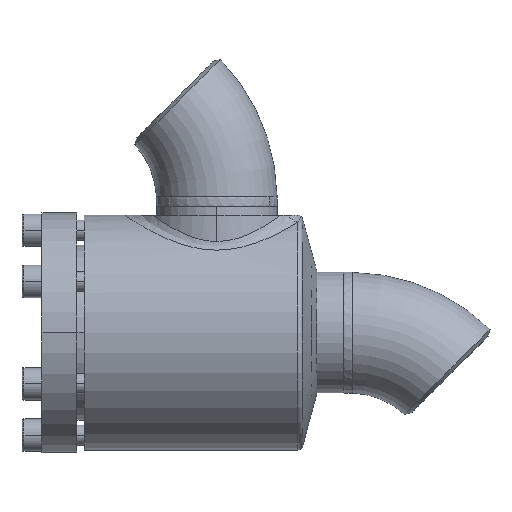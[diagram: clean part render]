
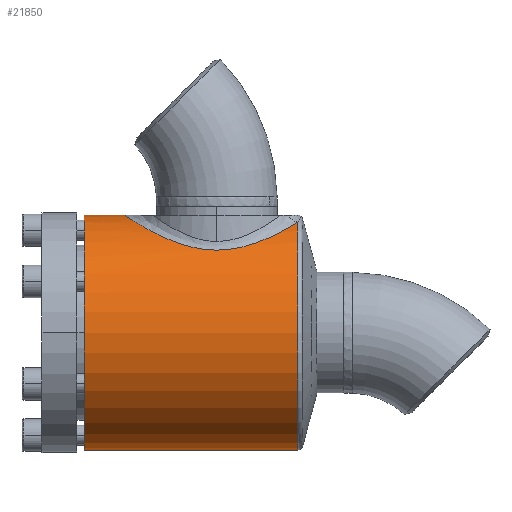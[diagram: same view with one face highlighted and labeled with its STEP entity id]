
A CAD part, left-side view. The second image highlights one B-rep face of the part: STEP entity #21850.
In plain terms, the highlighted cylindrical face has radius 47 mm (diameter 94 mm), a partial arc.
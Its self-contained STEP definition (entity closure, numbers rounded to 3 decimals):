
#556 = EDGE_CURVE ( 'NONE', #24353, #22381, #17076, .T. ) ;
#17076 = CIRCLE ( 'NONE', #17077, 47. ) ;
#17077 = AXIS2_PLACEMENT_3D ( 'NONE', #17078, #17079, #17080 ) ;
#17078 = CARTESIAN_POINT ( 'NONE',  ( 0., 0., 0. ) ) ;
#17079 = DIRECTION ( 'NONE',  ( 0., 1., 0. ) ) ;
#17080 = DIRECTION ( 'NONE',  ( 0., 0., 1. ) ) ;
#856 = VERTEX_POINT ( 'NONE', #17650 ) ;
#1221 = ORIENTED_EDGE ( 'NONE', *, *, #556, .F. ) ;
#17650 = CARTESIAN_POINT ( 'NONE',  ( -16.073, -85.446, 44.166 ) ) ;
#17912 = CARTESIAN_POINT ( 'NONE',  ( 0., 0., -47. ) ) ;
#18475 = LINE ( 'NONE', #18476, #18477 ) ;
#18476 = CARTESIAN_POINT ( 'NONE',  ( 0., -91., -47. ) ) ;
#18477 = VECTOR ( 'NONE', #18478, 1000. ) ;
#18478 = DIRECTION ( 'NONE',  ( 0., 1., 0. ) ) ;
#2147 = ORIENTED_EDGE ( 'NONE', *, *, #20493, .T. ) ;
#2567 = LINE ( 'NONE', #2568, #2569 ) ;
#2568 = CARTESIAN_POINT ( 'NONE',  ( 0., -91., 47. ) ) ;
#2569 = VECTOR ( 'NONE', #2570, 1000. ) ;
#2570 = DIRECTION ( 'NONE',  ( 0., 1., 0. ) ) ;
#2924 = CARTESIAN_POINT ( 'NONE',  ( 0., -85.446, -47. ) ) ;
#3069 = ORIENTED_EDGE ( 'NONE', *, *, #14698, .T. ) ;
#3166 = B_SPLINE_CURVE_WITH_KNOTS ( 'NONE', 3,
 ( #3167, #3184, #3185, #3186, #3187, #3188, #3189, #3190, #3191, #3192, #3193, #3194, #3195, #3196, #3197, #3198, #3199, #3216, #3217, #3218, #3219, #3220, #3221, #3222, #3223, #3224, #3225, #3226, #3227, #3228, #3229, #3230, #3231, #3252, #3253, #3254, #3255, #3256, #3257, #3258, #3259, #3260, #3261, #3262, #3263, #3264, #3265, #3266, #3267, #3286, #3287, #3288, #3289, #3290, #3291, #3292, #3293, #3294, #3295, #3296, #3297, #3298 ),
 .UNSPECIFIED., .F., .F.,
 ( 4, 2, 2, 2, 2, 2, 2, 2, 2, 2, 2, 2, 2, 2, 2, 2, 2, 2, 2, 2, 2, 2, 2, 2, 2, 2, 2, 2, 2, 2, 4 ),
 ( 0.017, 0.023, 0.026, 0.029, 0.035, 0.039, 0.04, 0.042, 0.048, 0.051, 0.052, 0.054, 0.06, 0.063, 0.066, 0.069, 0.072, 0.078, 0.081, 0.083, 0.084, 0.09, 0.093, 0.095, 0.096, 0.103, 0.106, 0.107, 0.109, 0.112, 0.115 ),
 .UNSPECIFIED. ) ;
#3167 = CARTESIAN_POINT ( 'NONE',  ( -16.073, -85.446, 44.166 ) ) ;
#3184 = CARTESIAN_POINT ( 'NONE',  ( -17.749, -84.43, 43.556 ) ) ;
#3185 = CARTESIAN_POINT ( 'NONE',  ( -19.293, -83.29, 42.887 ) ) ;
#3186 = CARTESIAN_POINT ( 'NONE',  ( -21.444, -81.41, 41.831 ) ) ;
#3187 = CARTESIAN_POINT ( 'NONE',  ( -22.133, -80.755, 41.469 ) ) ;
#3188 = CARTESIAN_POINT ( 'NONE',  ( -23.459, -79.389, 40.734 ) ) ;
#3189 = CARTESIAN_POINT ( 'NONE',  ( -24.096, -78.676, 40.359 ) ) ;
#3190 = CARTESIAN_POINT ( 'NONE',  ( -25.907, -76.48, 39.24 ) ) ;
#3191 = CARTESIAN_POINT ( 'NONE',  ( -26.989, -74.936, 38.497 ) ) ;
#3192 = CARTESIAN_POINT ( 'NONE',  ( -28.44, -72.491, 37.424 ) ) ;
#3193 = CARTESIAN_POINT ( 'NONE',  ( -28.894, -71.655, 37.073 ) ) ;
#3194 = CARTESIAN_POINT ( 'NONE',  ( -29.533, -70.366, 36.563 ) ) ;
#3195 = CARTESIAN_POINT ( 'NONE',  ( -29.739, -69.93, 36.396 ) ) ;
#3196 = CARTESIAN_POINT ( 'NONE',  ( -30.137, -69.047, 36.067 ) ) ;
#3197 = CARTESIAN_POINT ( 'NONE',  ( -30.328, -68.599, 35.906 ) ) ;
#3198 = CARTESIAN_POINT ( 'NONE',  ( -31.243, -66.344, 35.126 ) ) ;
#3199 = CARTESIAN_POINT ( 'NONE',  ( -31.842, -64.482, 34.576 ) ) ;
#19570 = ORIENTED_EDGE ( 'NONE', *, *, #4225, .T. ) ;
#3216 = CARTESIAN_POINT ( 'NONE',  ( -32.541, -61.591, 33.914 ) ) ;
#3217 = CARTESIAN_POINT ( 'NONE',  ( -32.74, -60.61, 33.721 ) ) ;
#3218 = CARTESIAN_POINT ( 'NONE',  ( -32.986, -59.111, 33.48 ) ) ;
#3219 = CARTESIAN_POINT ( 'NONE',  ( -33.059, -58.608, 33.408 ) ) ;
#3220 = CARTESIAN_POINT ( 'NONE',  ( -33.186, -57.603, 33.282 ) ) ;
#3221 = CARTESIAN_POINT ( 'NONE',  ( -33.239, -57.1, 33.229 ) ) ;
#3222 = CARTESIAN_POINT ( 'NONE',  ( -33.462, -54.583, 33.006 ) ) ;
#3223 = CARTESIAN_POINT ( 'NONE',  ( -33.49, -52.562, 32.976 ) ) ;
#3224 = CARTESIAN_POINT ( 'NONE',  ( -33.307, -49.52, 33.161 ) ) ;
#3225 = CARTESIAN_POINT ( 'NONE',  ( -33.207, -48.498, 33.262 ) ) ;
#3226 = CARTESIAN_POINT ( 'NONE',  ( -32.933, -46.49, 33.532 ) ) ;
#3227 = CARTESIAN_POINT ( 'NONE',  ( -32.761, -45.501, 33.702 ) ) ;
#3228 = CARTESIAN_POINT ( 'NONE',  ( -32.346, -43.55, 34.1 ) ) ;
#3229 = CARTESIAN_POINT ( 'NONE',  ( -32.103, -42.587, 34.33 ) ) ;
#3230 = CARTESIAN_POINT ( 'NONE',  ( -31.549, -40.688, 34.839 ) ) ;
#3231 = CARTESIAN_POINT ( 'NONE',  ( -31.237, -39.749, 35.121 ) ) ;
#3252 = CARTESIAN_POINT ( 'NONE',  ( -30.211, -37.009, 36.016 ) ) ;
#3253 = CARTESIAN_POINT ( 'NONE',  ( -29.406, -35.272, 36.683 ) ) ;
#3254 = CARTESIAN_POINT ( 'NONE',  ( -28.021, -32.781, 37.738 ) ) ;
#3255 = CARTESIAN_POINT ( 'NONE',  ( -27.529, -31.97, 38.099 ) ) ;
#3256 = CARTESIAN_POINT ( 'NONE',  ( -26.744, -30.781, 38.65 ) ) ;
#3257 = CARTESIAN_POINT ( 'NONE',  ( -26.475, -30.389, 38.835 ) ) ;
#3258 = CARTESIAN_POINT ( 'NONE',  ( -25.92, -29.615, 39.208 ) ) ;
#3259 = CARTESIAN_POINT ( 'NONE',  ( -25.634, -29.233, 39.396 ) ) ;
#3260 = CARTESIAN_POINT ( 'NONE',  ( -24.175, -27.357, 40.33 ) ) ;
#3261 = CARTESIAN_POINT ( 'NONE',  ( -22.902, -25.964, 41.072 ) ) ;
#3262 = CARTESIAN_POINT ( 'NONE',  ( -20.822, -24.029, 42.143 ) ) ;
#3263 = CARTESIAN_POINT ( 'NONE',  ( -20.099, -23.411, 42.494 ) ) ;
#3264 = CARTESIAN_POINT ( 'NONE',  ( -18.969, -22.523, 43.004 ) ) ;
#3265 = CARTESIAN_POINT ( 'NONE',  ( -18.584, -22.235, 43.172 ) ) ;
#3266 = CARTESIAN_POINT ( 'NONE',  ( -17.798, -21.671, 43.502 ) ) ;
#3267 = CARTESIAN_POINT ( 'NONE',  ( -17.396, -21.396, 43.664 ) ) ;
#3286 = CARTESIAN_POINT ( 'NONE',  ( -15.356, -20.064, 44.455 ) ) ;
#3287 = CARTESIAN_POINT ( 'NONE',  ( -13.635, -19.147, 45.018 ) ) ;
#3288 = CARTESIAN_POINT ( 'NONE',  ( -10.906, -18.006, 45.727 ) ) ;
#3289 = CARTESIAN_POINT ( 'NONE',  ( -9.972, -17.666, 45.94 ) ) ;
#3290 = CARTESIAN_POINT ( 'NONE',  ( -8.53, -17.219, 46.222 ) ) ;
#3291 = CARTESIAN_POINT ( 'NONE',  ( -8.041, -17.081, 46.31 ) ) ;
#3292 = CARTESIAN_POINT ( 'NONE',  ( -7.058, -16.829, 46.47 ) ) ;
#3293 = CARTESIAN_POINT ( 'NONE',  ( -6.563, -16.715, 46.542 ) ) ;
#3294 = CARTESIAN_POINT ( 'NONE',  ( -5.066, -16.41, 46.737 ) ) ;
#3295 = CARTESIAN_POINT ( 'NONE',  ( -4.049, -16.255, 46.836 ) ) ;
#3296 = CARTESIAN_POINT ( 'NONE',  ( -2.024, -16.051, 46.967 ) ) ;
#3297 = CARTESIAN_POINT ( 'NONE',  ( -1.011, -16., 47. ) ) ;
#3298 = CARTESIAN_POINT ( 'NONE',  ( 0., -16., 47. ) ) ;
#20101 = VERTEX_POINT ( 'NONE', #25938 ) ;
#20493 = EDGE_CURVE ( 'NONE', #20101, #22381, #2567, .T. ) ;
#20494 = ORIENTED_EDGE ( 'NONE', *, *, #24750, .F. ) ;
#4225 = EDGE_CURVE ( 'NONE', #6247, #856, #22464, .T. ) ;
#4382 = FACE_OUTER_BOUND ( 'NONE', #21422, .T. ) ;
#4383 = CYLINDRICAL_SURFACE ( 'NONE', #4384, 47. ) ;
#4384 = AXIS2_PLACEMENT_3D ( 'NONE', #4385, #4386, #4387 ) ;
#4385 = CARTESIAN_POINT ( 'NONE',  ( 0., -91., 0. ) ) ;
#4386 = DIRECTION ( 'NONE',  ( 0., 1., 0. ) ) ;
#4387 = DIRECTION ( 'NONE',  ( 0., 0., 1. ) ) ;
#21422 = EDGE_LOOP ( 'NONE', ( #20494, #19570, #3069, #2147, #1221 ) ) ;
#21850 = ADVANCED_FACE ( 'NONE', ( #4382 ), #4383, .T. ) ;
#22381 = VERTEX_POINT ( 'NONE', #29400 ) ;
#22464 = CIRCLE ( 'NONE', #22465, 47. ) ;
#22465 = AXIS2_PLACEMENT_3D ( 'NONE', #22466, #22467, #22468 ) ;
#22466 = CARTESIAN_POINT ( 'NONE',  ( 0., -85.446, 0. ) ) ;
#22467 = DIRECTION ( 'NONE',  ( 0., 1., 0. ) ) ;
#22468 = DIRECTION ( 'NONE',  ( 0., 0., -1. ) ) ;
#6247 = VERTEX_POINT ( 'NONE', #2924 ) ;
#24353 = VERTEX_POINT ( 'NONE', #17912 ) ;
#24750 = EDGE_CURVE ( 'NONE', #6247, #24353, #18475, .T. ) ;
#25938 = CARTESIAN_POINT ( 'NONE',  ( 0., -16., 47. ) ) ;
#29400 = CARTESIAN_POINT ( 'NONE',  ( 0., 0., 47. ) ) ;
#14698 = EDGE_CURVE ( 'NONE', #856, #20101, #3166, .T. ) ;
